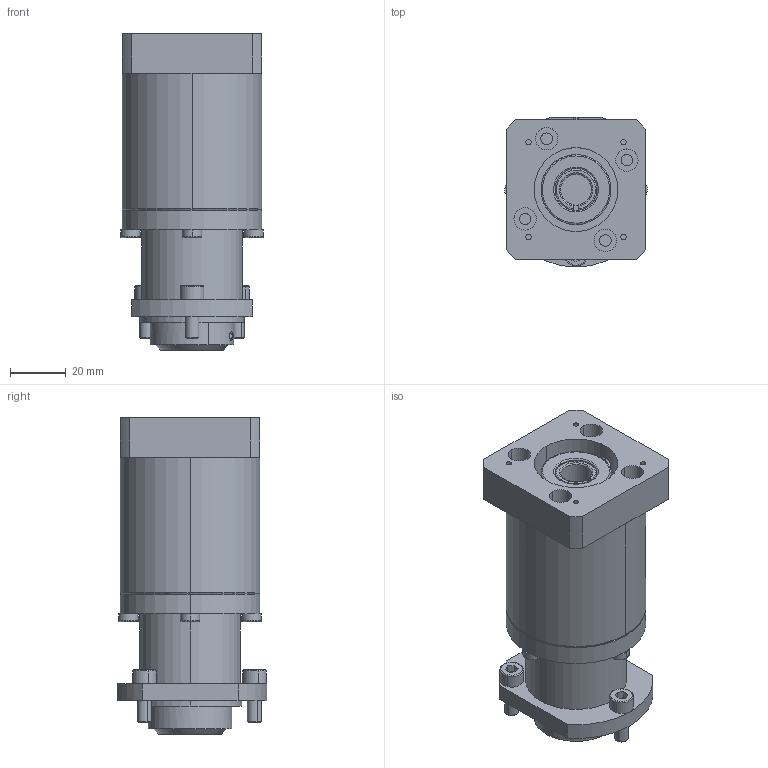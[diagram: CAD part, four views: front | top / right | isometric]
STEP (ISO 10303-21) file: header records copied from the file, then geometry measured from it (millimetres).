
FILE_DESCRIPTION (( 'STEP AP203' ), '1' );
FILE_NAME ('MAF040_MKU040_MPG040.STEP', '2013-09-30T13:38:27', ( 'Install' ), ( '' ), 'SwSTEP 2.0', 'SolidWorks 2013', '' );
FILE_SCHEMA (( 'CONFIG_CONTROL_DESIGN' ));
Length unit declared in the file: millimetre
Products named in the file (1): MAF040_MKU040_MPG040
Bounding box: 50.99 x 53.41 x 113 mm (x, y, z)
Volume: 170264.7 mm3; surface area: 53963.9 mm2
Topology: 18 solids, 18 shells, 535 faces, 1255 edges, 777 vertices
Faces by surface type: cylinder 226, plane 161, cone 84, torus 36, bspline 28
Entity records: 16768 total; most frequent: CARTESIAN_POINT 4357, DIRECTION 2730, ORIENTED_EDGE 2452, EDGE_CURVE 1226, AXIS2_PLACEMENT_3D 1117, VERTEX_POINT 777, EDGE_LOOP 623, CIRCLE 609
